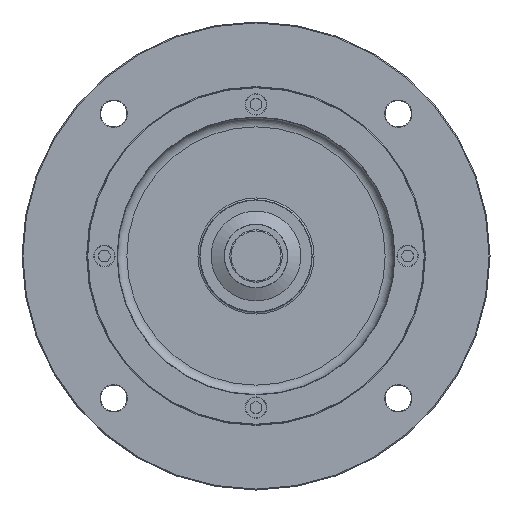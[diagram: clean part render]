
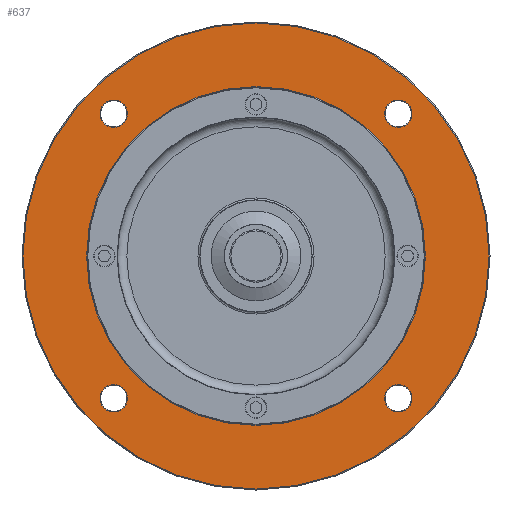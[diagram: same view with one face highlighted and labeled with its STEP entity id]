
A CAD part, front view. The second image highlights one B-rep face of the part: STEP entity #637.
In plain terms, the highlighted planar face has unit normal (0, -1, 0).
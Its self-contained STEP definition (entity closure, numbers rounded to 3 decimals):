
#637=ADVANCED_FACE('',(#1095,#1096,#1097,#1098,#1099,#931),#872,.T.);
#872=PLANE('',#3516);
#931=FACE_OUTER_BOUND('',#1353,.T.);
#1095=FACE_BOUND('',#1348,.T.);
#1096=FACE_BOUND('',#1349,.T.);
#1097=FACE_BOUND('',#1350,.T.);
#1098=FACE_BOUND('',#1351,.T.);
#1099=FACE_BOUND('',#1352,.T.);
#1348=EDGE_LOOP('',(#1758));
#1349=EDGE_LOOP('',(#1759));
#1350=EDGE_LOOP('',(#1760));
#1351=EDGE_LOOP('',(#1761));
#1352=EDGE_LOOP('',(#1762));
#1353=EDGE_LOOP('',(#1763));
#1758=ORIENTED_EDGE('',*,*,#2832,.T.);
#1759=ORIENTED_EDGE('',*,*,#2833,.T.);
#1760=ORIENTED_EDGE('',*,*,#2834,.T.);
#1761=ORIENTED_EDGE('',*,*,#2835,.T.);
#1762=ORIENTED_EDGE('',*,*,#2836,.T.);
#1763=ORIENTED_EDGE('',*,*,#2837,.T.);
#2522=VERTEX_POINT('',#5222);
#2523=VERTEX_POINT('',#5224);
#2524=VERTEX_POINT('',#5226);
#2525=VERTEX_POINT('',#5228);
#2526=VERTEX_POINT('',#5230);
#2527=VERTEX_POINT('',#5232);
#2832=EDGE_CURVE('',#2522,#2522,#3214,.T.);
#2833=EDGE_CURVE('',#2523,#2523,#3215,.T.);
#2834=EDGE_CURVE('',#2524,#2524,#3216,.T.);
#2835=EDGE_CURVE('',#2525,#2525,#3217,.T.);
#2836=EDGE_CURVE('',#2526,#2526,#3218,.T.);
#2837=EDGE_CURVE('',#2527,#2527,#3219,.T.);
#3214=CIRCLE('',#3510,90.5);
#3215=CIRCLE('',#3511,7.3);
#3216=CIRCLE('',#3512,7.3);
#3217=CIRCLE('',#3513,7.3);
#3218=CIRCLE('',#3514,7.3);
#3219=CIRCLE('',#3515,124.5);
#3510=AXIS2_PLACEMENT_3D('',#5221,#4057,#4058);
#3511=AXIS2_PLACEMENT_3D('',#5223,#4059,#4060);
#3512=AXIS2_PLACEMENT_3D('',#5225,#4061,#4062);
#3513=AXIS2_PLACEMENT_3D('',#5227,#4063,#4064);
#3514=AXIS2_PLACEMENT_3D('',#5229,#4065,#4066);
#3515=AXIS2_PLACEMENT_3D('',#5231,#4067,#4068);
#3516=AXIS2_PLACEMENT_3D('',#5233,#4069,#4070);
#4057=DIRECTION('',(0.,1.,0.));
#4058=DIRECTION('',(0.,0.,-1.));
#4059=DIRECTION('',(0.,1.,0.));
#4060=DIRECTION('',(0.,0.,-1.));
#4061=DIRECTION('',(0.,1.,0.));
#4062=DIRECTION('',(0.,0.,-1.));
#4063=DIRECTION('',(0.,1.,0.));
#4064=DIRECTION('',(0.,0.,-1.));
#4065=DIRECTION('',(0.,1.,0.));
#4066=DIRECTION('',(0.,0.,-1.));
#4067=DIRECTION('',(0.,-1.,0.));
#4068=DIRECTION('',(0.,0.,-1.));
#4069=DIRECTION('',(0.,-1.,0.));
#4070=DIRECTION('',(0.,0.,-1.));
#5221=CARTESIAN_POINT('',(0.,0.,0.));
#5222=CARTESIAN_POINT('',(0.,0.,-90.5));
#5223=CARTESIAN_POINT('',(76.014,0.,76.014));
#5224=CARTESIAN_POINT('',(76.014,0.,68.714));
#5225=CARTESIAN_POINT('',(76.014,0.,-76.014));
#5226=CARTESIAN_POINT('',(76.014,0.,-83.314));
#5227=CARTESIAN_POINT('',(-76.014,0.,-76.014));
#5228=CARTESIAN_POINT('',(-76.014,0.,-83.314));
#5229=CARTESIAN_POINT('',(-76.014,0.,76.014));
#5230=CARTESIAN_POINT('',(-76.014,0.,68.714));
#5231=CARTESIAN_POINT('',(0.,0.,0.));
#5232=CARTESIAN_POINT('',(0.,0.,-124.5));
#5233=CARTESIAN_POINT('',(0.,0.,0.));
